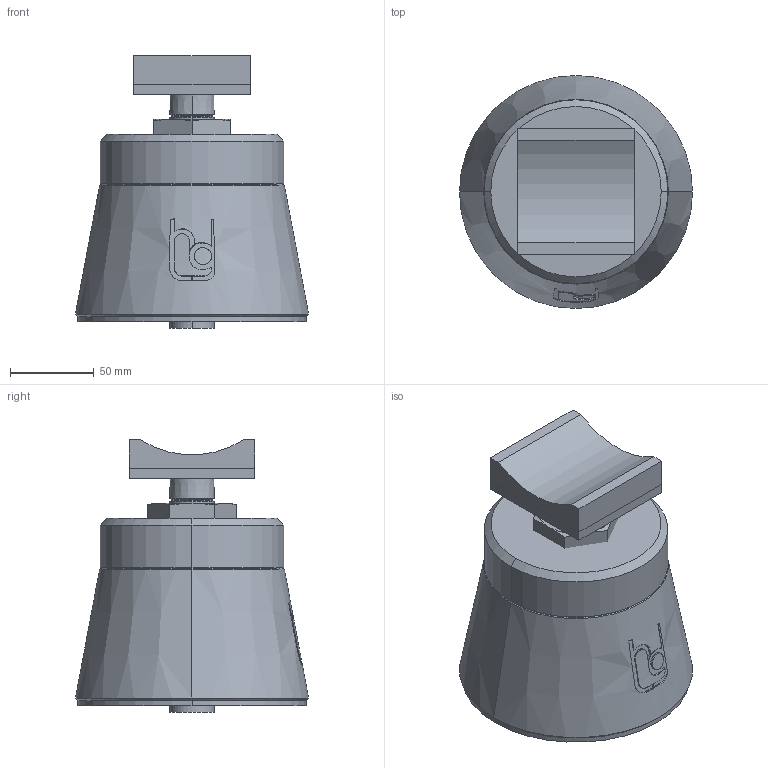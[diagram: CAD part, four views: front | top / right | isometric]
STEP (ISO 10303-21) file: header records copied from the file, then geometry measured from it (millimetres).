
FILE_DESCRIPTION(('STEP AP214'),'1');
FILE_NAME('RSRFS2_DN100.stp','2018-07-02T05:56:38',(' '),(' '),'Spatial InterOp 3D',' ',' ');
FILE_SCHEMA(('automotive_design'));
Length unit declared in the file: millimetre
Products named in the file (6): 1; 2; 3; 4; 5; 6
Bounding box: 139.44 x 139.44 x 163 mm (x, y, z)
Volume: 1496146.2 mm3; surface area: 159162.1 mm2
Topology: 6 solids, 6 shells, 127 faces, 312 edges, 201 vertices
Faces by surface type: plane 59, cylinder 37, cone 27, torus 4
Entity records: 5422 total; most frequent: CARTESIAN_POINT 1281, DIRECTION 635, ORIENTED_EDGE 624, EDGE_CURVE 312, AXIS2_PLACEMENT_3D 239, VERTEX_POINT 201, LINE 157, VECTOR 157
